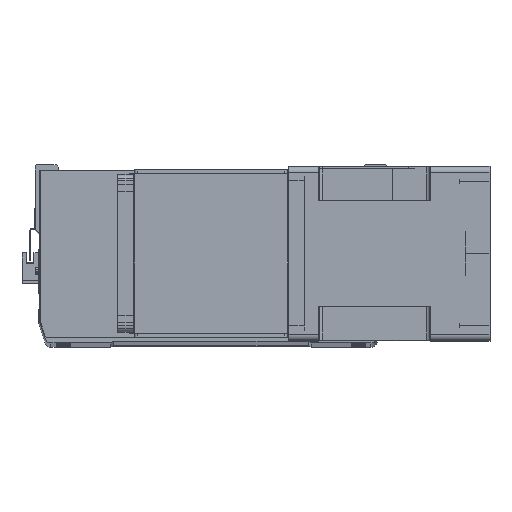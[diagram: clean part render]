
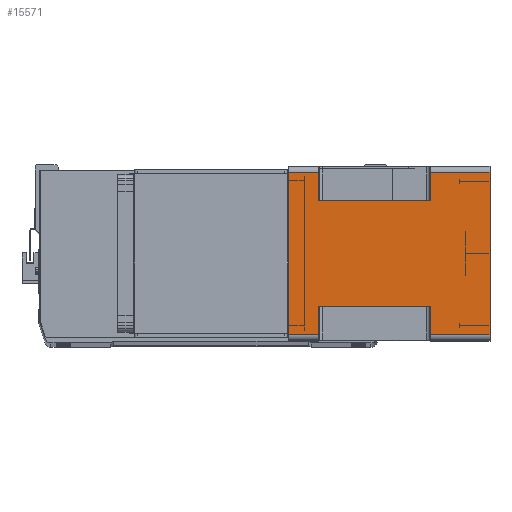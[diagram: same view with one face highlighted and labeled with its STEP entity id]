
A CAD part, top view. The second image highlights one B-rep face of the part: STEP entity #15571.
In plain terms, the highlighted planar face has unit normal (0, 0, 1) as drawn and (1, 0, 0) by its records, which use the part's own axes.
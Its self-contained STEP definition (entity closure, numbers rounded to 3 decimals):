
#104 = EDGE_CURVE ( 'NONE', #12011, #446, #26254, .T. ) ;
#223 = DIRECTION ( 'NONE',  ( 0., 1., 0. ) ) ;
#446 = VERTEX_POINT ( 'NONE', #6901 ) ;
#447 = CARTESIAN_POINT ( 'NONE',  ( 71., -66., -24.5 ) ) ;
#1245 = EDGE_CURVE ( 'NONE', #10977, #3014, #28160, .T. ) ;
#1378 = LINE ( 'NONE', #21139, #9988 ) ;
#2548 = CARTESIAN_POINT ( 'NONE',  ( 71., -66., -164. ) ) ;
#3014 = VERTEX_POINT ( 'NONE', #21568 ) ;
#3206 = DIRECTION ( 'NONE',  ( 0., 1., 0. ) ) ;
#3244 = EDGE_CURVE ( 'NONE', #15281, #24686, #10030, .T. ) ;
#3283 = CARTESIAN_POINT ( 'NONE',  ( 71., 66., -164. ) ) ;
#3704 = LINE ( 'NONE', #15510, #30821 ) ;
#3707 = LINE ( 'NONE', #9821, #22926 ) ;
#3793 = CARTESIAN_POINT ( 'NONE',  ( 71., -43., -24.5 ) ) ;
#4048 = VECTOR ( 'NONE', #19164, 1000. ) ;
#4649 = ORIENTED_EDGE ( 'NONE', *, *, #22707, .F. ) ;
#4687 = CARTESIAN_POINT ( 'NONE',  ( 71., 66., -115.5 ) ) ;
#5019 = CARTESIAN_POINT ( 'NONE',  ( 71., -66., -164. ) ) ;
#5026 = VERTEX_POINT ( 'NONE', #9609 ) ;
#5108 = ORIENTED_EDGE ( 'NONE', *, *, #3244, .T. ) ;
#5555 = DIRECTION ( 'NONE',  ( 0., 0., 1. ) ) ;
#5811 = CARTESIAN_POINT ( 'NONE',  ( 71., 66., -24.5 ) ) ;
#5921 = ORIENTED_EDGE ( 'NONE', *, *, #29545, .T. ) ;
#6901 = CARTESIAN_POINT ( 'NONE',  ( 71., -66., 0. ) ) ;
#6931 = CARTESIAN_POINT ( 'NONE',  ( 71., -66., -24.5 ) ) ;
#7182 = CARTESIAN_POINT ( 'NONE',  ( 71., -66., -115.5 ) ) ;
#7317 = VERTEX_POINT ( 'NONE', #4687 ) ;
#7372 = LINE ( 'NONE', #20733, #26655 ) ;
#8035 = CARTESIAN_POINT ( 'NONE',  ( 71., 66., -164. ) ) ;
#8515 = DIRECTION ( 'NONE',  ( 0., 1., 0. ) ) ;
#9095 = VERTEX_POINT ( 'NONE', #3793 ) ;
#9317 = CARTESIAN_POINT ( 'NONE',  ( 71., 43., -115.5 ) ) ;
#9609 = CARTESIAN_POINT ( 'NONE',  ( 71., 66., 0. ) ) ;
#9821 = CARTESIAN_POINT ( 'NONE',  ( 71., -43., -164. ) ) ;
#9988 = VECTOR ( 'NONE', #18694, 1000. ) ;
#10030 = LINE ( 'NONE', #447, #19435 ) ;
#10690 = VECTOR ( 'NONE', #23141, 1000. ) ;
#10691 = DIRECTION ( 'NONE',  ( 0., 1., 0. ) ) ;
#10817 = CARTESIAN_POINT ( 'NONE',  ( 71., 66., -164. ) ) ;
#10977 = VERTEX_POINT ( 'NONE', #17222 ) ;
#11488 = ORIENTED_EDGE ( 'NONE', *, *, #24696, .T. ) ;
#12011 = VERTEX_POINT ( 'NONE', #6931 ) ;
#12685 = DIRECTION ( 'NONE',  ( 0., 0., 1. ) ) ;
#13138 = FACE_OUTER_BOUND ( 'NONE', #28787, .T. ) ;
#13210 = VECTOR ( 'NONE', #22657, 1000. ) ;
#13685 = DIRECTION ( 'NONE',  ( 1., 0., 0. ) ) ;
#14169 = ORIENTED_EDGE ( 'NONE', *, *, #16445, .F. ) ;
#15281 = VERTEX_POINT ( 'NONE', #17966 ) ;
#15498 = DIRECTION ( 'NONE',  ( 0., 0., 1. ) ) ;
#15510 = CARTESIAN_POINT ( 'NONE',  ( 71., -43., -24.5 ) ) ;
#15529 = EDGE_CURVE ( 'NONE', #7317, #30006, #1378, .T. ) ;
#15571 = ADVANCED_FACE ( 'NONE', ( #13138 ), #26199, .T. ) ;
#15678 = CARTESIAN_POINT ( 'NONE',  ( 71., -66., 0. ) ) ;
#15796 = LINE ( 'NONE', #26891, #4048 ) ;
#15910 = EDGE_CURVE ( 'NONE', #10977, #9095, #3707, .T. ) ;
#15948 = DIRECTION ( 'NONE',  ( 0., 0., 1. ) ) ;
#16009 = VERTEX_POINT ( 'NONE', #8035 ) ;
#16445 = EDGE_CURVE ( 'NONE', #446, #5026, #29166, .T. ) ;
#16610 = ORIENTED_EDGE ( 'NONE', *, *, #31722, .F. ) ;
#16758 = LINE ( 'NONE', #2548, #31307 ) ;
#17222 = CARTESIAN_POINT ( 'NONE',  ( 71., -43., -115.5 ) ) ;
#17966 = CARTESIAN_POINT ( 'NONE',  ( 71., 43., -24.5 ) ) ;
#18694 = DIRECTION ( 'NONE',  ( 0., -1., 0. ) ) ;
#18983 = EDGE_CURVE ( 'NONE', #24686, #5026, #27424, .T. ) ;
#19164 = DIRECTION ( 'NONE',  ( 0., 0., -1. ) ) ;
#19329 = ORIENTED_EDGE ( 'NONE', *, *, #1245, .T. ) ;
#19435 = VECTOR ( 'NONE', #3206, 1000. ) ;
#19559 = VECTOR ( 'NONE', #28423, 1000. ) ;
#19561 = VECTOR ( 'NONE', #15498, 1000. ) ;
#20330 = CARTESIAN_POINT ( 'NONE',  ( 71., -66., -164. ) ) ;
#20733 = CARTESIAN_POINT ( 'NONE',  ( 71., -66., -164. ) ) ;
#20896 = ORIENTED_EDGE ( 'NONE', *, *, #104, .F. ) ;
#21139 = CARTESIAN_POINT ( 'NONE',  ( 71., 43., -115.5 ) ) ;
#21568 = CARTESIAN_POINT ( 'NONE',  ( 71., -66., -115.5 ) ) ;
#22032 = ORIENTED_EDGE ( 'NONE', *, *, #25089, .T. ) ;
#22123 = LINE ( 'NONE', #10817, #25653 ) ;
#22657 = DIRECTION ( 'NONE',  ( 0., -1., 0. ) ) ;
#22669 = ORIENTED_EDGE ( 'NONE', *, *, #15529, .T. ) ;
#22707 = EDGE_CURVE ( 'NONE', #26650, #3014, #7372, .T. ) ;
#22926 = VECTOR ( 'NONE', #12685, 1000. ) ;
#23141 = DIRECTION ( 'NONE',  ( 0., 1., 0. ) ) ;
#23549 = CARTESIAN_POINT ( 'NONE',  ( 71., -66., -164. ) ) ;
#24686 = VERTEX_POINT ( 'NONE', #5811 ) ;
#24696 = EDGE_CURVE ( 'NONE', #12011, #9095, #3704, .T. ) ;
#25089 = EDGE_CURVE ( 'NONE', #16009, #7317, #22123, .T. ) ;
#25653 = VECTOR ( 'NONE', #15948, 1000. ) ;
#26199 = PLANE ( 'NONE',  #26761 ) ;
#26254 = LINE ( 'NONE', #20330, #19561 ) ;
#26650 = VERTEX_POINT ( 'NONE', #5019 ) ;
#26655 = VECTOR ( 'NONE', #5555, 1000. ) ;
#26761 = AXIS2_PLACEMENT_3D ( 'NONE', #23549, #13685, #8515 ) ;
#26891 = CARTESIAN_POINT ( 'NONE',  ( 71., 43., -164. ) ) ;
#27424 = LINE ( 'NONE', #3283, #19559 ) ;
#28160 = LINE ( 'NONE', #7182, #13210 ) ;
#28423 = DIRECTION ( 'NONE',  ( 0., 0., 1. ) ) ;
#28787 = EDGE_LOOP ( 'NONE', ( #32555, #19329, #4649, #5921, #22032, #22669, #16610, #5108, #32261, #14169, #20896, #11488 ) ) ;
#29166 = LINE ( 'NONE', #15678, #10690 ) ;
#29545 = EDGE_CURVE ( 'NONE', #26650, #16009, #16758, .T. ) ;
#30006 = VERTEX_POINT ( 'NONE', #9317 ) ;
#30821 = VECTOR ( 'NONE', #10691, 1000. ) ;
#31307 = VECTOR ( 'NONE', #223, 1000. ) ;
#31722 = EDGE_CURVE ( 'NONE', #15281, #30006, #15796, .T. ) ;
#32261 = ORIENTED_EDGE ( 'NONE', *, *, #18983, .T. ) ;
#32555 = ORIENTED_EDGE ( 'NONE', *, *, #15910, .F. ) ;
